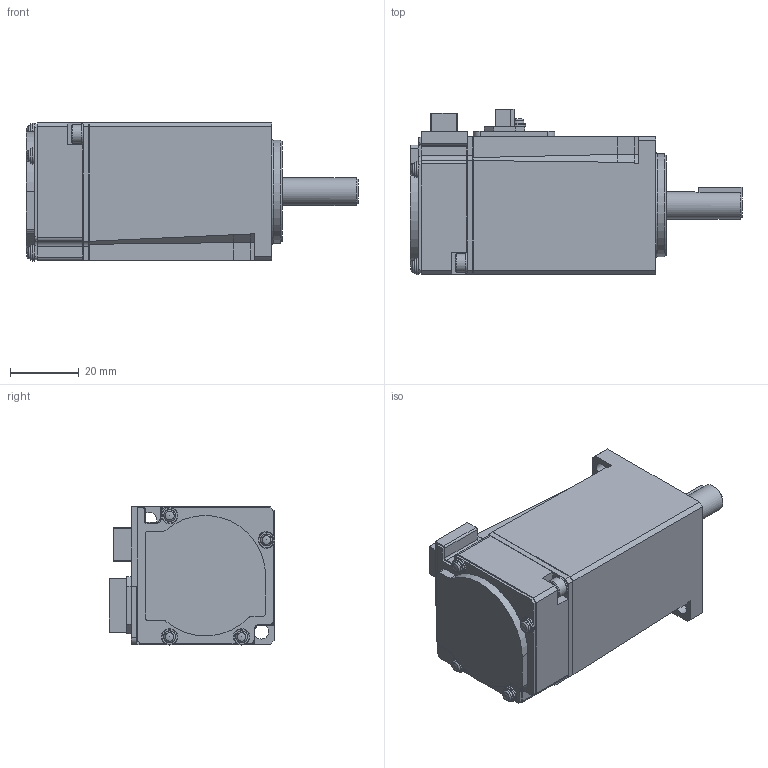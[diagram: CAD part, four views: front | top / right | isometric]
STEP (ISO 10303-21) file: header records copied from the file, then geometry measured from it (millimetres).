
FILE_DESCRIPTION( ( 'STEP AP214' ), ' ' );
FILE_NAME( 'p:/temp/worker_253/3140_2788/app_59_12016081613323702744829260eae72_000000_00_00_000000/format_0/MHMF012L1U1 20.stp', '2016-08-16T11:32:39', ( '' ), ( '' ), ' ', 'PARTsolutions', ' ' );
FILE_SCHEMA( ( 'AUTOMOTIVE_DESIGN { 1 0 10303 214 1 1 1 1 }' ) );
Length unit declared in the file: millimetre
Products named in the file (2): MHMF012L1U1 20; _MHMF012L1U2con
Assembly tree (1 placements, depth 2):
  MHMF012L1U1 20
    _MHMF012L1U2con
Bounding box: 96.5 x 48.05 x 40.15 mm (x, y, z)
Volume: 112537.8 mm3; surface area: 18008.2 mm2
Topology: 1 solids, 1 shells, 454 faces, 1167 edges, 757 vertices
Faces by surface type: plane 342, cylinder 74, cone 27, torus 6, sphere 5
Full cylindrical faces by diameter (mm): 1.567 x8, 2.459 x1, 3.1 x1, 4.3 x3, 4.4 x5, 4.8 x4, 5.5 x2, 6 x2, 8 x1, 8.9 x1, 10.5 x1, 30 x1
Entity records: 16725 total; most frequent: CARTESIAN_POINT 2294, DIRECTION 2159, ORIENTED_EDGE 2136, EDGE_CURVE 1068, LINE 883, VECTOR 883, VERTEX_POINT 739, AXIS2_PLACEMENT_3D 638
